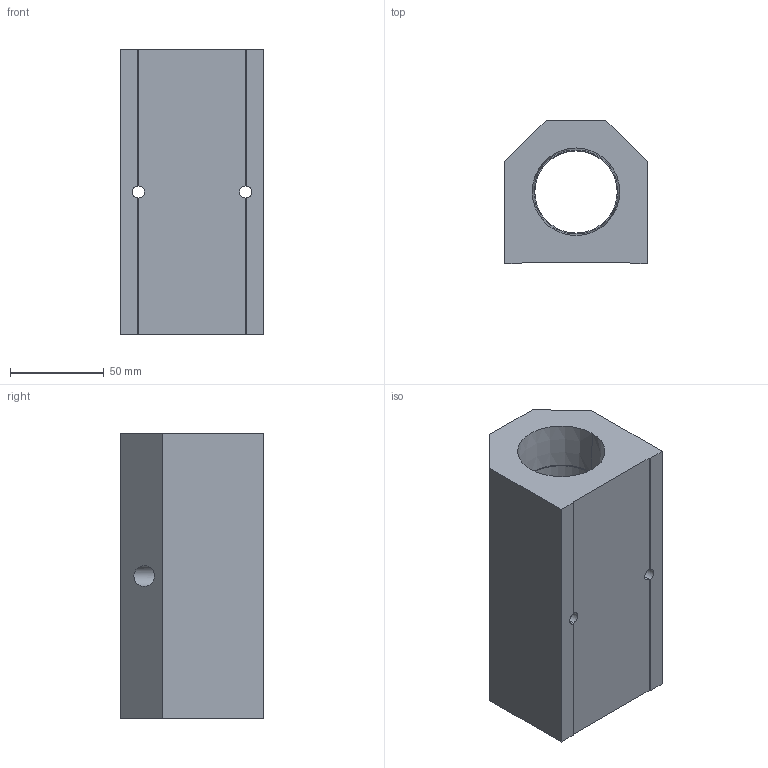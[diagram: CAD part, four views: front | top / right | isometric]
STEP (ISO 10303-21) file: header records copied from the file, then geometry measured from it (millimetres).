
FILE_DESCRIPTION (( 'STEP AP214' ), '1' );
FILE_NAME ('ALM2C-N4N24-152R.step', '2022-02-07T07:39:36', ( '' ), ( '' ), 'SwSTEP 2.0', 'SolidWorks 2020', '' );
FILE_SCHEMA (( 'AUTOMOTIVE_DESIGN' ));
Length unit declared in the file: millimetre
Products named in the file (1): ALM2C-N4N24-152R
Bounding box: 76.2 x 76.2 x 152 mm (x, y, z)
Volume: 556071.6 mm3; surface area: 74588.4 mm2
Topology: 1 solids, 1 shells, 266 faces, 704 edges, 468 vertices
Faces by surface type: plane 203, bspline 45, cylinder 10, cone 8
Entity records: 14061 total; most frequent: CARTESIAN_POINT 5146, ORIENTED_EDGE 1408, DIRECTION 1074, EDGE_CURVE 704, LINE 574, VECTOR 574, VERTEX_POINT 468, EDGE_LOOP 304
